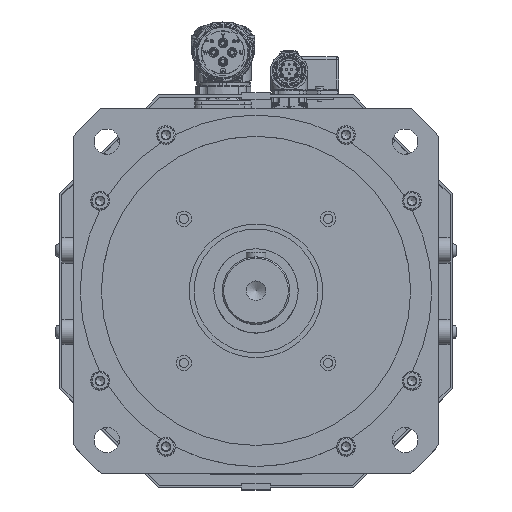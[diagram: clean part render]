
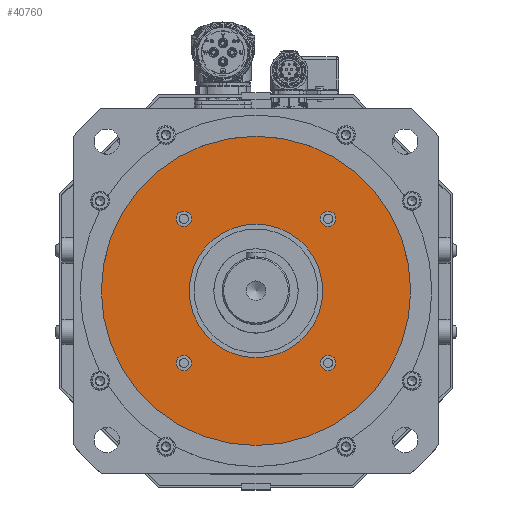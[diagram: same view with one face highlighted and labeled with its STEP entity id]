
A CAD part, top view. The second image highlights one B-rep face of the part: STEP entity #40760.
In plain terms, the highlighted planar face has unit normal (0, 0, 1).
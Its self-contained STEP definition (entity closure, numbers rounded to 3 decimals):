
#12078=FACE_BOUND('',#13229,.T.);
#12079=FACE_BOUND('',#13230,.T.);
#12080=FACE_BOUND('',#13231,.T.);
#12081=FACE_BOUND('',#13232,.T.);
#12082=FACE_BOUND('',#13233,.T.);
#12083=FACE_BOUND('',#13234,.T.);
#13229=EDGE_LOOP('',(#28458));
#13230=EDGE_LOOP('',(#28459));
#13231=EDGE_LOOP('',(#28460));
#13232=EDGE_LOOP('',(#28461));
#13233=EDGE_LOOP('',(#28462));
#13234=EDGE_LOOP('',(#28463));
#16701=CIRCLE('',#43439,5.5);
#16704=CIRCLE('',#43445,5.5);
#16707=CIRCLE('',#43451,5.5);
#16710=CIRCLE('',#43457,5.5);
#16770=CIRCLE('',#43563,47.5);
#16771=CIRCLE('',#43566,110.);
#18655=VERTEX_POINT('',#59118);
#18658=VERTEX_POINT('',#59127);
#18661=VERTEX_POINT('',#59136);
#18664=VERTEX_POINT('',#59145);
#18728=VERTEX_POINT('',#59342);
#18729=VERTEX_POINT('',#59346);
#22620=EDGE_CURVE('',#18655,#18655,#16701,.T.);
#22623=EDGE_CURVE('',#18658,#18658,#16704,.T.);
#22626=EDGE_CURVE('',#18661,#18661,#16707,.T.);
#22629=EDGE_CURVE('',#18664,#18664,#16710,.T.);
#22716=EDGE_CURVE('',#18728,#18728,#16770,.T.);
#22717=EDGE_CURVE('',#18729,#18729,#16771,.T.);
#28458=ORIENTED_EDGE('',*,*,#22620,.T.);
#28459=ORIENTED_EDGE('',*,*,#22623,.T.);
#28460=ORIENTED_EDGE('',*,*,#22626,.T.);
#28461=ORIENTED_EDGE('',*,*,#22629,.T.);
#28462=ORIENTED_EDGE('',*,*,#22716,.T.);
#28463=ORIENTED_EDGE('',*,*,#22717,.F.);
#39577=PLANE('',#43567);
#40760=ADVANCED_FACE('',(#12078,#12079,#12080,#12081,#12082,#12083),#39577,
 .T.);
#43439=AXIS2_PLACEMENT_3D('',#59119,#47935,#47936);
#43445=AXIS2_PLACEMENT_3D('',#59128,#47947,#47948);
#43451=AXIS2_PLACEMENT_3D('',#59137,#47959,#47960);
#43457=AXIS2_PLACEMENT_3D('',#59146,#47971,#47972);
#43563=AXIS2_PLACEMENT_3D('',#59343,#48210,#48211);
#43566=AXIS2_PLACEMENT_3D('',#59347,#48216,#48217);
#43567=AXIS2_PLACEMENT_3D('',#59348,#48218,#48219);
#47935=DIRECTION('center_axis',(0.,0.,-1.));
#47936=DIRECTION('ref_axis',(0.,-1.,0.));
#47947=DIRECTION('center_axis',(0.,0.,-1.));
#47948=DIRECTION('ref_axis',(-1.,0.,0.));
#47959=DIRECTION('center_axis',(0.,0.,-1.));
#47960=DIRECTION('ref_axis',(0.,1.,0.));
#47971=DIRECTION('center_axis',(0.,0.,-1.));
#47972=DIRECTION('ref_axis',(1.,0.,0.));
#48210=DIRECTION('center_axis',(0.,0.,-1.));
#48211=DIRECTION('ref_axis',(-1.,0.,0.));
#48216=DIRECTION('center_axis',(0.,0.,-1.));
#48217=DIRECTION('ref_axis',(-1.,0.,0.));
#48218=DIRECTION('center_axis',(0.,0.,1.));
#48219=DIRECTION('ref_axis',(1.,0.,0.));
#59118=CARTESIAN_POINT('',(51.265,45.765,47.));
#59119=CARTESIAN_POINT('Origin',(51.265,51.265,47.));
#59127=CARTESIAN_POINT('',(45.765,-51.265,47.));
#59128=CARTESIAN_POINT('Origin',(51.265,-51.265,47.));
#59136=CARTESIAN_POINT('',(-51.265,-45.765,47.));
#59137=CARTESIAN_POINT('Origin',(-51.265,-51.265,47.));
#59145=CARTESIAN_POINT('',(-45.765,51.265,47.));
#59146=CARTESIAN_POINT('Origin',(-51.265,51.265,47.));
#59342=CARTESIAN_POINT('',(47.5,0.,47.));
#59343=CARTESIAN_POINT('Origin',(0.,0.,47.));
#59346=CARTESIAN_POINT('',(110.,0.,47.));
#59347=CARTESIAN_POINT('Origin',(0.,0.,47.));
#59348=CARTESIAN_POINT('Origin',(0.,0.,47.));
